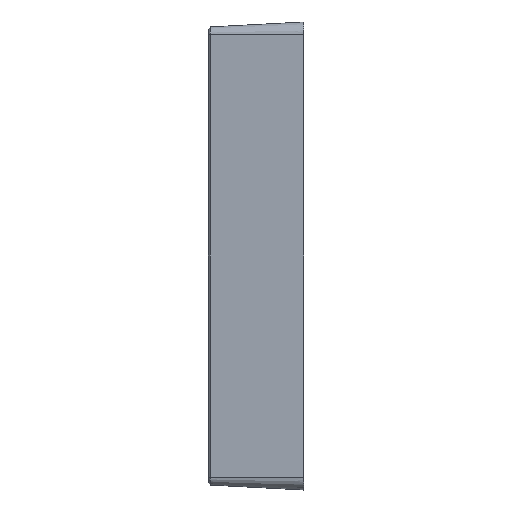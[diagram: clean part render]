
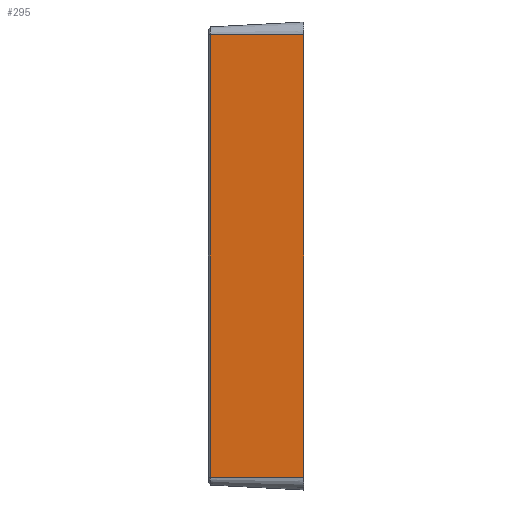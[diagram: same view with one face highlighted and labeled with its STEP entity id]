
A CAD part, left-side view. The second image highlights one B-rep face of the part: STEP entity #295.
In plain terms, the highlighted planar face has unit normal (-0.999, 0.052, 0).
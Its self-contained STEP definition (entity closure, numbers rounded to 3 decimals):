
#184 = EDGE_CURVE ( 'NONE', #231, #185, #1102, .T. ) ;
#185 = VERTEX_POINT ( 'NONE', #1098 ) ;
#186 = ORIENTED_EDGE ( 'NONE', *, *, #187, .T. ) ;
#187 = EDGE_CURVE ( 'NONE', #231, #215, #1097, .T. ) ;
#188 = ORIENTED_EDGE ( 'NONE', *, *, #214, .T. ) ;
#189 = ORIENTED_EDGE ( 'NONE', *, *, #190, .T. ) ;
#190 = EDGE_CURVE ( 'NONE', #225, #185, #1093, .T. ) ;
#214 = EDGE_CURVE ( 'NONE', #215, #225, #1179, .T. ) ;
#215 = VERTEX_POINT ( 'NONE', #1175 ) ;
#225 = VERTEX_POINT ( 'NONE', #1246 ) ;
#230 = ORIENTED_EDGE ( 'NONE', *, *, #184, .F. ) ;
#231 = VERTEX_POINT ( 'NONE', #1240 ) ;
#295 = ADVANCED_FACE ( 'NONE', ( #1276 ), #1275, .T. ) ;
#296 = EDGE_LOOP ( 'NONE', ( #230, #186, #188, #189 ) ) ;
#1090 = DIRECTION ( 'NONE',  ( 0., 0., 1. ) ) ;
#1091 = VECTOR ( 'NONE', #1090, 1000. ) ;
#1092 = CARTESIAN_POINT ( 'NONE',  ( -65., 0., -61.5 ) ) ;
#1093 = LINE ( 'NONE', #1092, #1091 ) ;
#1094 = DIRECTION ( 'NONE',  ( 0., 0., -1. ) ) ;
#1095 = VECTOR ( 'NONE', #1094, 1000. ) ;
#1096 = CARTESIAN_POINT ( 'NONE',  ( -63.639, 25.967, -61.5 ) ) ;
#1097 = LINE ( 'NONE', #1096, #1095 ) ;
#1098 = CARTESIAN_POINT ( 'NONE',  ( -65., 0., 61.5 ) ) ;
#1099 = DIRECTION ( 'NONE',  ( -0.052, -0.999, 0. ) ) ;
#1100 = VECTOR ( 'NONE', #1099, 1000. ) ;
#1101 = CARTESIAN_POINT ( 'NONE',  ( -65., 0., 61.5 ) ) ;
#1102 = LINE ( 'NONE', #1101, #1100 ) ;
#1175 = CARTESIAN_POINT ( 'NONE',  ( -63.639, 25.967, -61.5 ) ) ;
#1176 = DIRECTION ( 'NONE',  ( -0.052, -0.999, 0. ) ) ;
#1177 = VECTOR ( 'NONE', #1176, 1000. ) ;
#1178 = CARTESIAN_POINT ( 'NONE',  ( -65., 0., -61.5 ) ) ;
#1179 = LINE ( 'NONE', #1178, #1177 ) ;
#1240 = CARTESIAN_POINT ( 'NONE',  ( -63.639, 25.967, 61.5 ) ) ;
#1246 = CARTESIAN_POINT ( 'NONE',  ( -65., 0., -61.5 ) ) ;
#1271 = DIRECTION ( 'NONE',  ( -0.052, -0.999, 0. ) ) ;
#1272 = DIRECTION ( 'NONE',  ( -0.999, 0.052, 0. ) ) ;
#1273 = CARTESIAN_POINT ( 'NONE',  ( -65., 0., -61.5 ) ) ;
#1274 = AXIS2_PLACEMENT_3D ( 'NONE', #1273, #1272, #1271 ) ;
#1275 = PLANE ( 'NONE',  #1274 ) ;
#1276 = FACE_OUTER_BOUND ( 'NONE', #296, .T. ) ;
